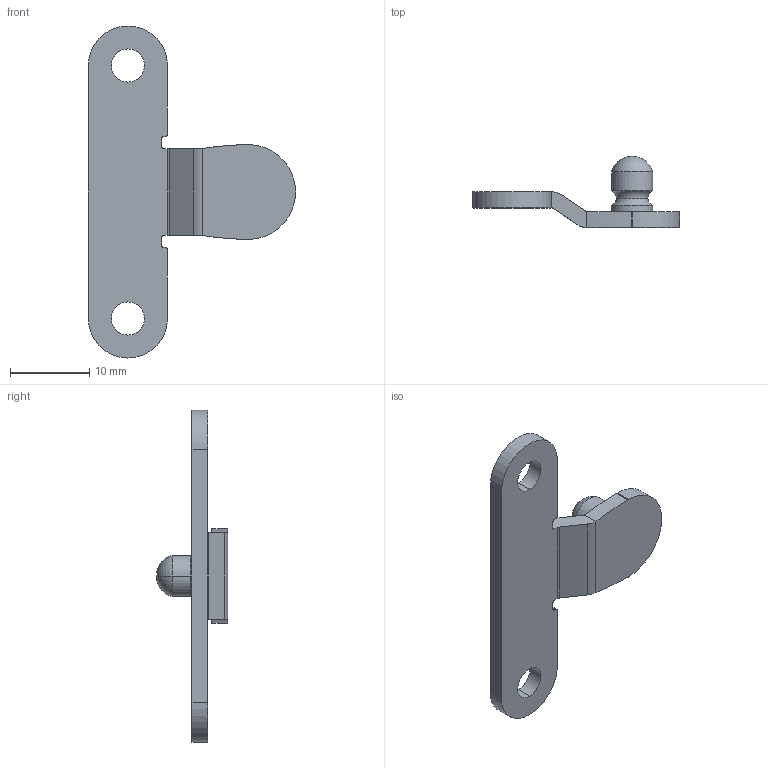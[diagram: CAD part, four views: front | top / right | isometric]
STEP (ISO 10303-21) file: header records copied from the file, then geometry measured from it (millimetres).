
FILE_DESCRIPTION (( 'STEP AP203' ), '1' );
FILE_NAME ('Anschraubwinkel_T-105_Alurahmen_D2659525125~0.step', '2012-05-04T06:19:30', ( 'admin' ), ( 'Hewlett-Packard Company' ), 'SwSTEP 2.0', 'SolidWorks 2011', '' );
FILE_SCHEMA (( 'CONFIG_CONTROL_DESIGN' ));
Length unit declared in the file: millimetre
Products named in the file (1): Anschraubwinkel_T-105_Alurahmen_D2659525125~0
Bounding box: 26.2 x 9 x 42 mm (x, y, z)
Volume: 1218.1 mm3; surface area: 1502.4 mm2
Topology: 1 solids, 1 shells, 47 faces, 127 edges, 81 vertices
Faces by surface type: cylinder 26, plane 15, torus 6
Entity records: 1572 total; most frequent: DIRECTION 277, CARTESIAN_POINT 266, ORIENTED_EDGE 250, EDGE_CURVE 125, AXIS2_PLACEMENT_3D 108, VERTEX_POINT 81, LINE 61, VECTOR 61
